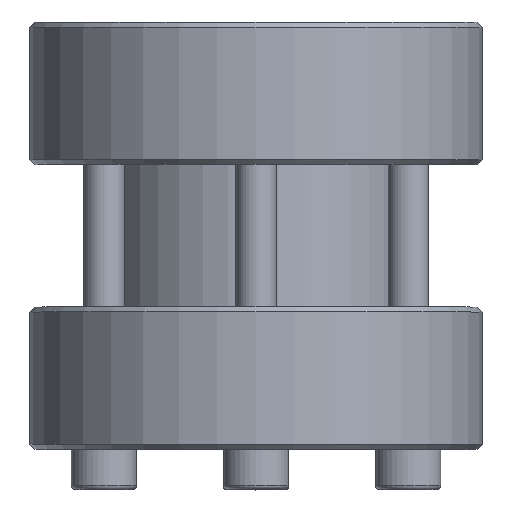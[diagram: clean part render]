
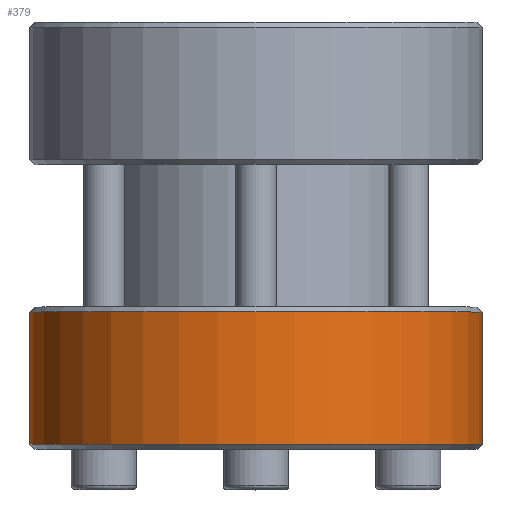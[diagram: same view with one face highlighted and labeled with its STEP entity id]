
A CAD part, top view. The second image highlights one B-rep face of the part: STEP entity #379.
In plain terms, the highlighted cylindrical face has radius 45 mm (diameter 90 mm), a full revolution.
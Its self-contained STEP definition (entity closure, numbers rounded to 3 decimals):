
#379 = ADVANCED_FACE( '', ( #623, #624 ), #625, .T. );
#623 = FACE_OUTER_BOUND( '', #793, .T. );
#624 = FACE_OUTER_BOUND( '', #794, .T. );
#625 = CYLINDRICAL_SURFACE( '', #795, 45. );
#793 = EDGE_LOOP( '', ( #1062 ) );
#794 = EDGE_LOOP( '', ( #1063 ) );
#795 = AXIS2_PLACEMENT_3D( '', #1064, #1065, #1066 );
#1062 = ORIENTED_EDGE( '', *, *, #1360, .T. );
#1063 = ORIENTED_EDGE( '', *, *, #1361, .T. );
#1064 = CARTESIAN_POINT( '', ( 0., -60., 0. ) );
#1065 = DIRECTION( '', ( 0., 1., 0. ) );
#1066 = DIRECTION( '', ( 0., 0., -1. ) );
#1360 = EDGE_CURVE( '', #1537, #1537, #1538, .T. );
#1361 = EDGE_CURVE( '', #1539, #1539, #1540, .T. );
#1537 = VERTEX_POINT( '', #1709 );
#1538 = CIRCLE( '', #1710, 45. );
#1539 = VERTEX_POINT( '', #1711 );
#1540 = CIRCLE( '', #1712, 45. );
#1709 = CARTESIAN_POINT( '', ( 0., 27.333, -45. ) );
#1710 = AXIS2_PLACEMENT_3D( '', #1841, #1842, #1843 );
#1711 = CARTESIAN_POINT( '', ( 0., 1., 45. ) );
#1712 = AXIS2_PLACEMENT_3D( '', #1844, #1845, #1846 );
#1841 = CARTESIAN_POINT( '', ( 0., 27.333, 0. ) );
#1842 = DIRECTION( '', ( 0., -1., 0. ) );
#1843 = DIRECTION( '', ( 0., 0., -1. ) );
#1844 = CARTESIAN_POINT( '', ( 0., 1., 0. ) );
#1845 = DIRECTION( '', ( 0., 1., 0. ) );
#1846 = DIRECTION( '', ( 0., 0., 1. ) );
